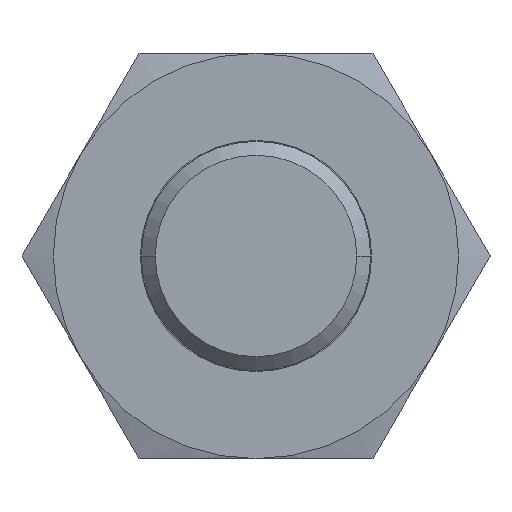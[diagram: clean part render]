
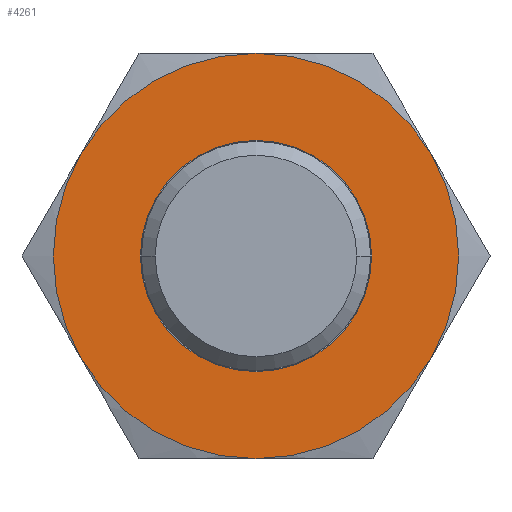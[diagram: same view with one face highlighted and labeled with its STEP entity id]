
A CAD part, left-side view. The second image highlights one B-rep face of the part: STEP entity #4261.
In plain terms, the highlighted free-form (B-spline) face has degree [1, 1] with [2, 2] control points.
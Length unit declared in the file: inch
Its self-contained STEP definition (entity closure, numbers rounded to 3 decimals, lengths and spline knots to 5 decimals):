
#390=CARTESIAN_POINT('',(-0.2775,-0.2495,0.0));
#391=VERTEX_POINT('',#390);
#400=CARTESIAN_POINT('',(-0.2775,0.2495,0.));
#401=VERTEX_POINT('',#400);
#402=CARTESIAN_POINT('',(-0.2775,0.0,0.0));
#403=DIRECTION('',(-1.0,0.0,0.0));
#404=DIRECTION('',(0.0,-1.0,0.0));
#405=AXIS2_PLACEMENT_3D('',#402,#403,#404);
#406=CIRCLE('',#405,0.2495);
#407=EDGE_CURVE('',#391,#401,#406,.T.);
#1622=CARTESIAN_POINT('',(-0.2775,0.0,-0.4375));
#1623=VERTEX_POINT('',#1622);
#1657=CARTESIAN_POINT('',(-0.2775,0.,0.4375));
#1658=VERTEX_POINT('',#1657);
#1665=CARTESIAN_POINT('',(-0.2775,0.0,0.0));
#1666=DIRECTION('',(-1.0,0.0,0.0));
#1667=DIRECTION('',(0.0,0.0,-1.0));
#1668=AXIS2_PLACEMENT_3D('',#1665,#1666,#1667);
#1669=CIRCLE('',#1668,0.4375);
#1670=EDGE_CURVE('',#1623,#1658,#1669,.T.);
#4236=CARTESIAN_POINT('',(-0.2775,0.4375,0.4375));
#4237=CARTESIAN_POINT('',(-0.2775,0.4375,-0.4375));
#4238=CARTESIAN_POINT('',(-0.2775,-0.4375,0.4375));
#4239=CARTESIAN_POINT('',(-0.2775,-0.4375,-0.4375));
#4240=B_SPLINE_SURFACE_WITH_KNOTS('',1,1,((#4236,#4238),(#4237,#4239)),.UNSPECIFIED.,.F.,.F.,.U.,(2,2),(2,2),(0.0,0.875),(0.0,0.875),.UNSPECIFIED.);
#4241=ORIENTED_EDGE('',*,*,#1670,.T.);
#4242=CARTESIAN_POINT('',(-0.2775,0.0,0.0));
#4243=DIRECTION('',(-1.0,0.0,0.0));
#4244=DIRECTION('',(0.0,0.0,-1.0));
#4245=AXIS2_PLACEMENT_3D('',#4242,#4243,#4244);
#4246=CIRCLE('',#4245,0.4375);
#4247=EDGE_CURVE('',#1658,#1623,#4246,.T.);
#4248=ORIENTED_EDGE('',*,*,#4247,.T.);
#4249=EDGE_LOOP('',(#4241,#4248));
#4250=FACE_OUTER_BOUND('',#4249,.T.);
#4251=ORIENTED_EDGE('',*,*,#407,.F.);
#4252=CARTESIAN_POINT('',(-0.2775,0.0,0.0));
#4253=DIRECTION('',(-1.0,0.0,0.0));
#4254=DIRECTION('',(0.0,-1.0,0.0));
#4255=AXIS2_PLACEMENT_3D('',#4252,#4253,#4254);
#4256=CIRCLE('',#4255,0.2495);
#4257=EDGE_CURVE('',#401,#391,#4256,.T.);
#4258=ORIENTED_EDGE('',*,*,#4257,.F.);
#4259=EDGE_LOOP('',(#4251,#4258));
#4260=FACE_BOUND('',#4259,.T.);
#4261=ADVANCED_FACE('',(#4250,#4260),#4240,.T.);
